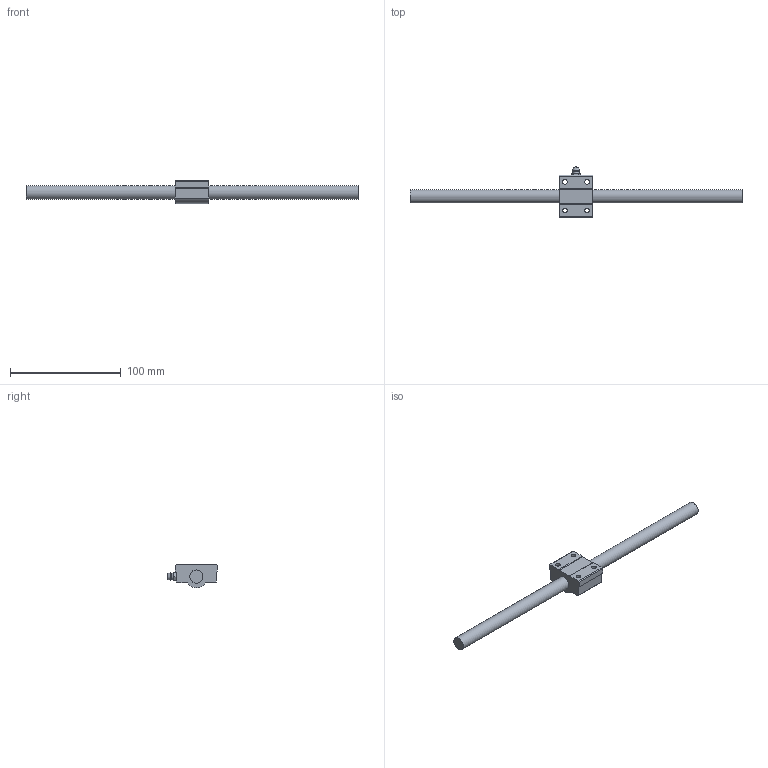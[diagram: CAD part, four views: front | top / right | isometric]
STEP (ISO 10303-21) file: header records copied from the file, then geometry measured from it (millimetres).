
FILE_DESCRIPTION((''),'2;1');
FILE_NAME('D:\製品 (図面)\カタログ用3D\ネジ関連\STEP形式\TMH\TMH12.stp','2010-06-02T15:16:48',('Tsuchiya'),(''),'Autodesk Inventor 10','Autodesk Inventor 10','');
FILE_SCHEMA(('AUTOMOTIVE_DESIGN { 1 0 10303 214 1 1 1 1 }'));
Length unit declared in the file: millimetre
Products named in the file (3): TMH12; TMH121; TMH122
Assembly tree (2 placements, depth 2):
  TMH12
    TMH121
    TMH122
Bounding box: 300 x 45.8 x 21 mm (x, y, z)
Volume: 49524.5 mm3; surface area: 17952.4 mm2
Topology: 2 solids, 2 shells, 62 faces, 147 edges, 93 vertices
Faces by surface type: plane 31, cone 13, cylinder 8, bspline 8, sphere 2
Full cylindrical faces by diameter (mm): 4 x2, 4.134 x2, 12 x2
Entity records: 1849 total; most frequent: CARTESIAN_POINT 476, DIRECTION 265, ORIENTED_EDGE 254, EDGE_CURVE 127, AXIS2_PLACEMENT_3D 103, EDGE_LOOP 93, VERTEX_POINT 90, FACE_OUTER_BOUND 62
